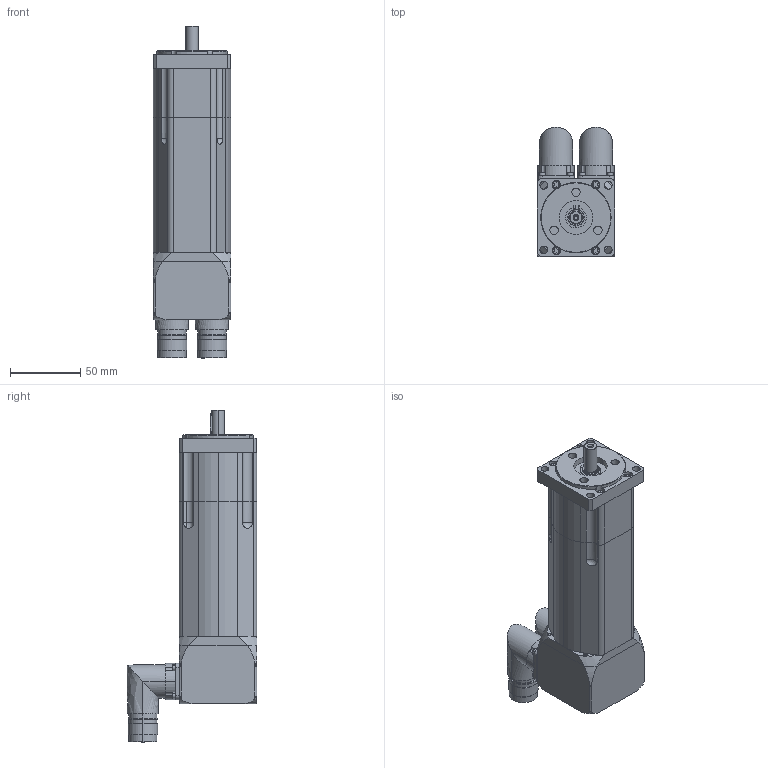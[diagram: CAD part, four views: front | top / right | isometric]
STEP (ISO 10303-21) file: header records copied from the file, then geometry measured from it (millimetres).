
FILE_DESCRIPTION (( 'STEP AP203' ), '1' );
FILE_NAME ('SSAX055M_CF.STEP', '2016-02-09T18:35:06', ( 'Tecnico motori' ), ( '' ), 'SwSTEP 2.0', 'SolidWorks 2010', '' );
FILE_SCHEMA (( 'CONFIG_CONTROL_DESIGN' ));
Length unit declared in the file: millimetre
Products named in the file (1): SSAX055M_CF
Bounding box: 55 x 92 x 236 mm (x, y, z)
Surface area: 63616.2 mm2 (no closed solid volume)
Topology: 0 solids, 28 shells, 432 faces, 1206 edges, 836 vertices
Faces by surface type: cylinder 220, plane 165, cone 19, torus 18, sphere 6, bspline 4
Entity records: 14584 total; most frequent: CARTESIAN_POINT 3035, DIRECTION 2611, ORIENTED_EDGE 2061, EDGE_CURVE 1202, AXIS2_PLACEMENT_3D 1030, VERTEX_POINT 834, CIRCLE 601, VECTOR 551
